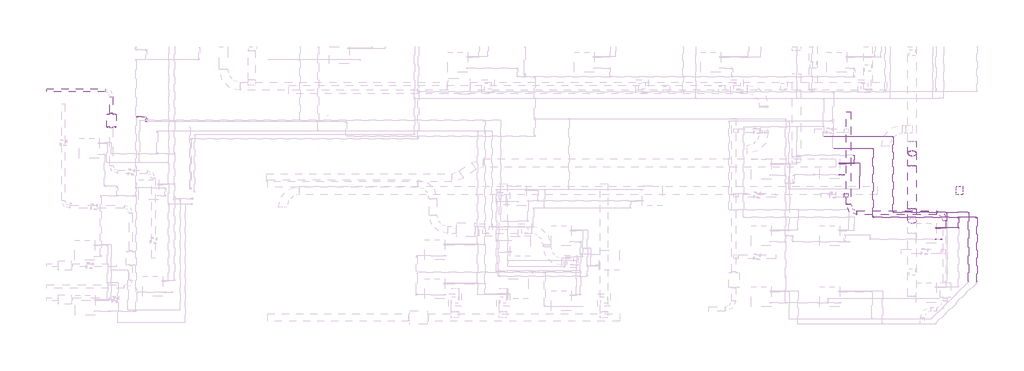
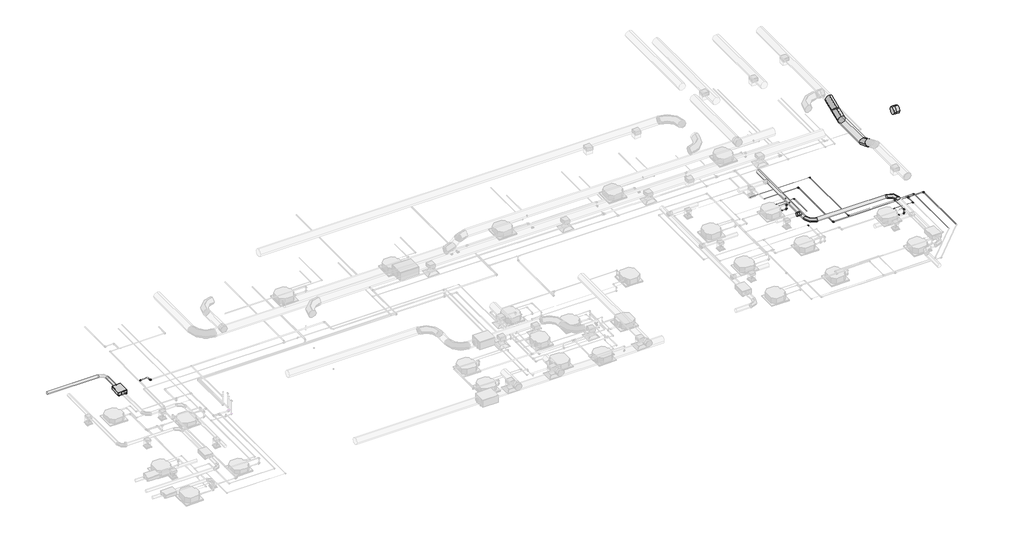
# One storey, part 12 of 21: 31 pipe fittings, 24 pipe segments, 7 duct fittings, 6 duct segments, 1 proxy.
"""IFC4 building model written with IfcOpenShell, lengths in millimetres."""

from ifc_helpers import new_model, si_unit, point, frame, frame_2d, origin, place, context, project, spatial, circle_curve, trimmed, segment, composite_curve, outline, extrude, transform, mapped, element, save
from components import fh_fh_150_19aaf5c2, duct_fitting_7b39ec1d, duct_fitting_f399081e, duct_fitting_2_d_646eede3, duct_fitting_2_d_9d61b47e, pipe_fitting_0ad7e8bf, pipe_fitting_e2d793b1, pipe_fitting_535881cf, pipe_fitting_36148165, pipe_fitting_144f4440, pipe_fitting_8793459d, pipe_fitting_1c2f676e, pipe_fitting_a5ff4f7d, pipe_fitting_660e7500, pipe_fitting_bd571644, pipe_fitting_e11027af, pipe_fitting_fb233220, pipe_fitting_41652c07, pipe_fitting_fefc82c8, pipe_fitting_c900cfc2, pipe_fitting_16c020f5, pipe_fitting_0e110a5f, pipe_fitting_afe73776, pipe_fitting_09966660, pipe_fitting_59d1f3e3, pipe_fitting_648138cd, pipe_fitting_d1254744

model = new_model("IFC4")

# Units and contexts
model_context = context("Model", 3, world=origin())
ifc_project = project(units=[si_unit("LENGTHUNIT", "METRE", prefix="MILLI")], contexts=[model_context])

# Site, building, storey
site = spatial("IfcSite", under=ifc_project)
building = spatial("IfcBuilding", under=site)
storey = spatial("IfcBuildingStorey", under=building, Name="Nível 1", Elevation=0.0)

# Proxy
placement = place(None, origin())
fh_fh_150_shape = fh_fh_150_19aaf5c2(model_context)
element("IfcBuildingElementProxy", 1, Name="FH : FH 150", ObjectType="FH : FH 150", at=placement, inside=storey, context=model_context, shape_type="MappedRepresentation", body=[
    mapped(fh_fh_150_shape, transform((-10322.9288653, 651.5577969, 3400.0), x_axis=(1.0, 0.0, 0.0), y_axis=(0.0, 1.0, 0.0), z_axis=(0.0, 0.0, 1.0))),
])

# Duct fittings
duct_fitting_shape = duct_fitting_7b39ec1d(model_context)
element("IfcDuctFitting", 2, ObjectType="M_Encaixe de duto redondo : Padrão", at=placement, inside=storey, context=model_context, shape_type="MappedRepresentation", body=[
    mapped(duct_fitting_shape, transform((24589.1034633, -2888.7123683, 3521.0), x_axis=(-1.0, 0.0, 0.0), y_axis=(0.0, 1.0, 0.0), z_axis=(0.0, 0.0, -1.0))),
])
duct_fitting_2_shape = duct_fitting_f399081e(model_context)
element("IfcDuctFitting", 3, ObjectType="M_Encaixe de duto redondo : Padrão", at=placement, inside=storey, context=model_context, shape_type="MappedRepresentation", body=[
    mapped(duct_fitting_2_shape, transform((29914.7064473, -2666.746009, 7501.0), x_axis=(-1.0, 0.0, 0.0), y_axis=(0.0, 1.0, 0.0), z_axis=(0.0, 0.0, -1.0))),
])
duct_fitting_2_d_shape = duct_fitting_2_d_646eede3(model_context)
element("IfcDuctFitting", 4, ObjectType="M_Cotovelo redondo : 2 D", at=placement, inside=storey, context=model_context, shape_type="MappedRepresentation", body=[
    mapped(duct_fitting_2_d_shape, transform((29288.6034633, -3719.1233987, 3521.0), x_axis=(0.0, 1.0, 0.0), y_axis=(-1.0, 0.0, 0.0), z_axis=(0.0, 0.0, 1.0))),
])
element("IfcDuctFitting", 5, ObjectType="M_Cotovelo redondo : 2 D", at=placement, inside=storey, context=model_context, shape_type="MappedRepresentation", body=[
    mapped(duct_fitting_2_d_shape, transform((24688.6034633, -3719.1233987, 3521.0), x_axis=(0.0, -1.0, 0.0), y_axis=(1.0, 0.0, 0.0), z_axis=(0.0, 0.0, 1.0))),
])
duct_fitting_2_d_2_shape = duct_fitting_2_d_9d61b47e(model_context)
element("IfcDuctFitting", 6, ObjectType="M_Cotovelo redondo : 2 D", at=placement, inside=storey, context=model_context, shape_type="MappedRepresentation", body=[
    mapped(duct_fitting_2_d_2_shape, transform((27714.7064473, -662.6460251, 7501.0), x_axis=(0.0, -1.0, 0.0), y_axis=(0.0, 0.0, -1.0), z_axis=(1.0, 0.0, 0.0))),
])
element("IfcDuctFitting", 7, ObjectType="M_Cotovelo redondo : 2 D", at=placement, inside=storey, context=model_context, shape_type="MappedRepresentation", body=[
    mapped(duct_fitting_2_d_2_shape, transform((27714.7064473, -1163.6460251, 7000.0), x_axis=(0.0, -0.707106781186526, -0.7071067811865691), y_axis=(0.0, -0.7071067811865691, 0.707106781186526), z_axis=(-1.0, 0.0, 0.0))),
])
element("IfcDuctFitting", 8, ObjectType="M_Cotovelo redondo : 2 D", at=placement, inside=storey, context=model_context, shape_type="MappedRepresentation", body=[
    mapped(duct_fitting_2_d_2_shape, transform((27714.7064473, -3862.6460251, 7000.0), x_axis=(0.0, -1.0, 0.0), y_axis=(0.0, 0.0, 1.0), z_axis=(-1.0, 0.0, 0.0))),
])

# Duct segments
element("IfcDuctSegment", 9, ObjectType="Torneiras / Raio curto", at=placement, inside=storey, context=model_context, shape_type="SweptSolid", body=[
    extrude(outline(composite_curve([segment(trimmed(circle_curve(frame_2d((3493.0, -10322.9288653)), 74.5), [point((3493.0, -10248.4288653))], [point((3567.5, -10322.9288653))], False, "CARTESIAN"), True, "CONTINUOUS"), segment(trimmed(circle_curve(frame_2d((3493.0, -10322.9288653)), 74.5), [point((3567.5, -10322.9288653))], [point((3493.0, -10397.4288653))], False, "CARTESIAN"), True, "CONTINUOUS"), segment(trimmed(circle_curve(frame_2d((3493.0, -10322.9288653)), 74.5), [point((3493.0, -10397.4288653))], [point((3418.5, -10322.9288653))], False, "CARTESIAN"), True, "CONTINUOUS"), segment(trimmed(circle_curve(frame_2d((3493.0, -10322.9288653)), 74.5), [point((3418.5, -10322.9288653))], [point((3493.0, -10248.4288653))], False, "CARTESIAN"), True, "CONTINUOUS")], self_intersect=False)), frame((0.0, 993.5577969, 0.0), z_axis=(0.0, 1.0, 0.0), x_axis=(0.0, 0.0, 1.0)), (0.0, 0.0, 1.0), 802.0),
])
element("IfcDuctSegment", 10, ObjectType="Torneiras / Raio curto", at=placement, inside=storey, context=model_context, shape_type="SweptSolid", body=[
    extrude(outline(composite_curve([segment(trimmed(circle_curve(frame_2d((2093.5577969, 3493.0)), 74.5), [point((2168.0577969, 3493.0))], [point((2093.5577969, 3418.5))], False, "CARTESIAN"), True, "CONTINUOUS"), segment(trimmed(circle_curve(frame_2d((2093.5577969, 3493.0)), 74.5), [point((2093.5577969, 3418.5))], [point((2019.0577969, 3493.0))], False, "CARTESIAN"), True, "CONTINUOUS"), segment(trimmed(circle_curve(frame_2d((2093.5577969, 3493.0)), 74.5), [point((2019.0577969, 3493.0))], [point((2093.5577969, 3567.5))], False, "CARTESIAN"), True, "CONTINUOUS"), segment(trimmed(circle_curve(frame_2d((2093.5577969, 3493.0)), 74.5), [point((2093.5577969, 3567.5))], [point((2168.0577969, 3493.0))], False, "CARTESIAN"), True, "CONTINUOUS")], self_intersect=False)), frame((-13404.386399, 0.0, 0.0), z_axis=(1.0, 0.0, 0.0), x_axis=(0.0, 1.0, 0.0)), (0.0, 0.0, 1.0), 2783.4575337),
])
element("IfcDuctSegment", 11, ObjectType="Torneiras / Raio curto", at=placement, inside=storey, context=model_context, shape_type="SweptSolid", body=[
    extrude(outline(composite_curve([segment(trimmed(circle_curve(frame_2d((-3719.1233987, 3521.0)), 99.5), [point((-3619.6233987, 3521.0))], [point((-3719.1233987, 3421.5))], False, "CARTESIAN"), True, "CONTINUOUS"), segment(trimmed(circle_curve(frame_2d((-3719.1233987, 3521.0)), 99.5), [point((-3719.1233987, 3421.5))], [point((-3818.6233987, 3521.0))], False, "CARTESIAN"), True, "CONTINUOUS"), segment(trimmed(circle_curve(frame_2d((-3719.1233987, 3521.0)), 99.5), [point((-3818.6233987, 3521.0))], [point((-3719.1233987, 3620.5))], False, "CARTESIAN"), True, "CONTINUOUS"), segment(trimmed(circle_curve(frame_2d((-3719.1233987, 3521.0)), 99.5), [point((-3719.1233987, 3620.5))], [point((-3619.6233987, 3521.0))], False, "CARTESIAN"), True, "CONTINUOUS")], self_intersect=False)), frame((25086.6034633, 0.0, 0.0), z_axis=(1.0, 0.0, 0.0), x_axis=(0.0, 1.0, 0.0)), (0.0, 0.0, 1.0), 3804.0),
])
element("IfcDuctSegment", 12, ObjectType="Torneiras / Raio curto", at=placement, inside=storey, context=model_context, shape_type="SweptSolid", body=[
    extrude(outline(composite_curve([segment(trimmed(circle_curve(frame_2d((3521.0, 24688.6034633)), 99.5), [point((3521.0, 24788.1034633))], [point((3620.5, 24688.6034633))], False, "CARTESIAN"), True, "CONTINUOUS"), segment(trimmed(circle_curve(frame_2d((3521.0, 24688.6034633)), 99.5), [point((3620.5, 24688.6034633))], [point((3521.0, 24589.1034633))], False, "CARTESIAN"), True, "CONTINUOUS"), segment(trimmed(circle_curve(frame_2d((3521.0, 24688.6034633)), 99.5), [point((3521.0, 24589.1034633))], [point((3421.5, 24688.6034633))], False, "CARTESIAN"), True, "CONTINUOUS"), segment(trimmed(circle_curve(frame_2d((3521.0, 24688.6034633)), 99.5), [point((3421.5, 24688.6034633))], [point((3521.0, 24788.1034633))], False, "CARTESIAN"), True, "CONTINUOUS")], self_intersect=False)), frame((0.0, -3321.1233987, 0.0), z_axis=(0.0, 1.0, 0.0), x_axis=(0.0, 0.0, 1.0)), (0.0, 0.0, 1.0), 4402.0),
])
element("IfcDuctSegment", 13, ObjectType="Torneiras / Raio curto", at=placement, inside=storey, context=model_context, shape_type="SweptSolid", body=[
    extrude(outline(composite_curve([segment(trimmed(circle_curve(frame_2d((7000.0, 27714.7064473)), 200.0), [point((7000.0, 27514.7064473))], [point((6800.0, 27714.7064473))], False, "CARTESIAN"), True, "CONTINUOUS"), segment(trimmed(circle_curve(frame_2d((7000.0, 27714.7064473)), 200.0), [point((6800.0, 27714.7064473))], [point((7000.0, 27914.7064473))], False, "CARTESIAN"), True, "CONTINUOUS"), segment(trimmed(circle_curve(frame_2d((7000.0, 27714.7064473)), 200.0), [point((7000.0, 27914.7064473))], [point((7200.0, 27714.7064473))], False, "CARTESIAN"), True, "CONTINUOUS"), segment(trimmed(circle_curve(frame_2d((7000.0, 27714.7064473)), 200.0), [point((7200.0, 27714.7064473))], [point((7000.0, 27514.7064473))], False, "CARTESIAN"), True, "CONTINUOUS")], self_intersect=False)), frame((0.0, -3531.2751752, 0.0), z_axis=(0.0, 1.0, 0.0), x_axis=(0.0, 0.0, 1.0)), (0.0, 0.0, 1.0), 2036.2583002),
])
element("IfcDuctSegment", 14, ObjectType="Torneiras / Raio curto", at=placement, inside=storey, context=model_context, shape_type="SweptSolid", body=[
    extrude(outline(composite_curve([segment(trimmed(circle_curve(frame_2d((0.0, -200.0000001)), 200.0), [point((-200.0, -200.0000001))], [point((0.0, 0.0))], False, "CARTESIAN"), True, "CONTINUOUS"), segment(trimmed(circle_curve(frame_2d((0.0, -200.0000001)), 200.0), [point((0.0, 0.0))], [point((200.0, -200.0000001))], False, "CARTESIAN"), True, "CONTINUOUS"), segment(trimmed(circle_curve(frame_2d((0.0, -200.0000001)), 200.0), [point((200.0, -200.0000001))], [point((0.0, -400.0))], False, "CARTESIAN"), True, "CONTINUOUS"), segment(trimmed(circle_curve(frame_2d((0.0, -200.0000001)), 200.0), [point((0.0, -400.0))], [point((-200.0, -200.0000001))], False, "CARTESIAN"), True, "CONTINUOUS")], self_intersect=False)), frame((27714.7064473, -787.9100938, 7092.8932188), z_axis=(0.0, 0.7071067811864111, 0.7071067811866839), x_axis=(1.0, 0.0, 0.0)), (0.0, 0.0, 1.0), 45.779295),
])

# Pipe fittings
pipe_fitting_shape = pipe_fitting_0ad7e8bf(model_context)
element("IfcPipeFitting", 15, ObjectType="Cotovelo - Soldado - CU : Padrão", at=placement, inside=storey, context=model_context, shape_type="MappedRepresentation", body=[
    mapped(pipe_fitting_shape, transform((25856.1500382, -671.6771216, 3246.8), x_axis=(0.0, 1.0, 0.0), y_axis=(-1.0, 0.0, 0.0), z_axis=(0.0, 0.0, 1.0))),
])
element("IfcPipeFitting", 16, ObjectType="Cotovelo - Soldado - CU : Padrão", at=placement, inside=storey, context=model_context, shape_type="MappedRepresentation", body=[
    mapped(pipe_fitting_shape, transform((25856.1500382, -3937.5722412, 3246.8), x_axis=(0.0, -1.0, 0.0), y_axis=(1.0, 0.0, 0.0), z_axis=(0.0, 0.0, 1.0))),
])
pipe_fitting_2_shape = pipe_fitting_e2d793b1(model_context)
element("IfcPipeFitting", 17, ObjectType="Bucha de redução reta - Soldada - CU : Padrão", at=placement, inside=storey, context=model_context, shape_type="MappedRepresentation", body=[
    mapped(pipe_fitting_2_shape, transform((24230.0530733, -1926.1931819, 3252.2660491), x_axis=(1.0, 0.0, 0.0), y_axis=(0.0, 1.0, 0.0), z_axis=(0.0, 0.0, 1.0))),
])
element("IfcPipeFitting", 18, ObjectType="Bucha de redução reta - Soldada - CU : Padrão", at=placement, inside=storey, context=model_context, shape_type="MappedRepresentation", body=[
    mapped(pipe_fitting_2_shape, transform((28813.6034633, -4984.1233987, 3252.3085101), x_axis=(1.0, 0.0, 0.0), y_axis=(0.0, 1.0, 0.0), z_axis=(0.0, 0.0, 1.0))),
])
pipe_fitting_3_shape = pipe_fitting_535881cf(model_context)
element("IfcPipeFitting", 19, ObjectType="Cotovelo - Soldado - CU : Padrão", at=placement, inside=storey, context=model_context, shape_type="MappedRepresentation", body=[
    mapped(pipe_fitting_3_shape, transform((24490.0530711, -1926.1931819, 3500.0), x_axis=(0.0, 0.0, 1.0), y_axis=(-1.0, 0.0, 0.0), z_axis=(0.0, -1.0, 0.0))),
])
element("IfcPipeFitting", 20, ObjectType="Cotovelo - Soldado - CU : Padrão", at=placement, inside=storey, context=model_context, shape_type="MappedRepresentation", body=[
    mapped(pipe_fitting_3_shape, transform((29113.6034631, -4984.1233987, 3500.0), x_axis=(0.0, 0.0, 1.0), y_axis=(-1.0, 0.0, 0.0), z_axis=(0.0, -1.0, 0.0))),
])
pipe_fitting_4_shape = pipe_fitting_36148165(model_context)
element("IfcPipeFitting", 21, ObjectType="Redutor de acoplamento - PVC - CW : Padrão", at=placement, inside=storey, context=model_context, shape_type="MappedRepresentation", body=[
    mapped(pipe_fitting_4_shape, transform((-9107.735193, 826.0615245, 3483.5835642), x_axis=(1.0, 0.0, 0.0), y_axis=(0.0, 0.9999500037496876, 0.009999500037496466), z_axis=(0.0, -0.009999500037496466, 0.9999500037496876))),
])
pipe_fitting_5_shape = pipe_fitting_144f4440(model_context)
element("IfcPipeFitting", 22, ObjectType="Cotovelo - PVC - CW : Padrão", at=placement, inside=storey, context=model_context, shape_type="MappedRepresentation", body=[
    mapped(pipe_fitting_5_shape, transform((-8672.0832008, 606.0615245, 3500.4499775), x_axis=(0.0, -1.0, 0.0), y_axis=(1.0, 0.0, 0.0), z_axis=(0.0, 0.0, 1.0))),
])
pipe_fitting_6_shape = pipe_fitting_8793459d(model_context)
element("IfcPipeFitting", 23, ObjectType="Cotovelo - Soldado - CU : Padrão", at=placement, inside=storey, context=model_context, shape_type="MappedRepresentation", body=[
    mapped(pipe_fitting_6_shape, transform((24490.0530711, -1926.1931819, 3252.3), x_axis=(0.9999999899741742, 0.0, 0.00014160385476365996), y_axis=(-0.00014160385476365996, 0.0, 0.9999999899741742), z_axis=(0.0, -1.0, 0.0))),
])
pipe_fitting_7_shape = pipe_fitting_1c2f676e(model_context)
element("IfcPipeFitting", 24, ObjectType="Cotovelo - Soldado - CU : Padrão", at=placement, inside=storey, context=model_context, shape_type="MappedRepresentation", body=[
    mapped(pipe_fitting_7_shape, transform((29113.6034631, -4984.1233987, 3252.3), x_axis=(0.9999999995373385, 0.0, -3.0419120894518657e-05), y_axis=(3.0419120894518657e-05, 0.0, 0.9999999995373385), z_axis=(0.0, -1.0, 0.0))),
])
pipe_fitting_8_shape = pipe_fitting_a5ff4f7d(model_context)
element("IfcPipeFitting", 25, ObjectType="Bucha de redução reta - Soldada - CU : Padrão", at=placement, inside=storey, context=model_context, shape_type="MappedRepresentation", body=[
    mapped(pipe_fitting_8_shape, transform((29890.9617916, -4425.9125851, 3246.9823632), x_axis=(-0.9999844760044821, 0.0, 0.00557205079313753), y_axis=(0.0, -1.0, 0.0), z_axis=(0.00557205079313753, 0.0, 0.9999844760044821))),
])
pipe_fitting_9_shape = pipe_fitting_660e7500(model_context)
element("IfcPipeFitting", 26, ObjectType="Tê - Soldado - CU : Padrão", at=placement, inside=storey, context=model_context, shape_type="MappedRepresentation", body=[
    mapped(pipe_fitting_9_shape, transform((29923.6894835, -4425.9125851, 3246.8), x_axis=(0.0, 1.0, 0.0), y_axis=(0.9999844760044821, 0.0, -0.00557205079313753), z_axis=(-0.00557205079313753, 0.0, -0.9999844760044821))),
])
pipe_fitting_10_shape = pipe_fitting_bd571644(model_context)
element("IfcPipeFitting", 27, ObjectType="Bucha de redução reta - Soldada - CU : Padrão", at=placement, inside=storey, context=model_context, shape_type="MappedRepresentation", body=[
    mapped(pipe_fitting_10_shape, transform((24702.7119733, -3612.6101808, 3258.3807208), x_axis=(0.0, -0.9999999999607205, 8.863362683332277e-06), y_axis=(1.0000000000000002, 0.0, 0.0), z_axis=(0.0, 8.863362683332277e-06, 0.9999999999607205))),
])
pipe_fitting_11_shape = pipe_fitting_e11027af(model_context)
element("IfcPipeFitting", 28, ObjectType="Tê - Soldado - CU : Padrão", at=placement, inside=storey, context=model_context, shape_type="MappedRepresentation", body=[
    mapped(pipe_fitting_11_shape, transform((29923.6894835, -3937.5722412, 3246.8), x_axis=(-1.0, 0.0, 0.0), y_axis=(0.0, 1.0, 0.0), z_axis=(0.0, 0.0, -1.0))),
])
pipe_fitting_12_shape = pipe_fitting_fb233220(model_context)
element("IfcPipeFitting", 29, ObjectType="Bucha de redução reta - Soldada - CU : Padrão", at=placement, inside=storey, context=model_context, shape_type="MappedRepresentation", body=[
    mapped(pipe_fitting_12_shape, transform((29923.6894835, -3978.0197412, 3246.8), x_axis=(0.0, -1.0, 0.0), y_axis=(1.0, 0.0, 0.0), z_axis=(0.0, 0.0, 1.0))),
])
pipe_fitting_13_shape = pipe_fitting_41652c07(model_context)
element("IfcPipeFitting", 30, ObjectType="Bucha de redução reta - Soldada - CU : Padrão", at=placement, inside=storey, context=model_context, shape_type="MappedRepresentation", body=[
    mapped(pipe_fitting_13_shape, transform((29964.1082335, -3937.5722412, 3246.8), x_axis=(1.0, 0.0, 0.0), y_axis=(0.0, 1.0, 0.0), z_axis=(0.0, 0.0, 1.0))),
])
pipe_fitting_14_shape = pipe_fitting_fefc82c8(model_context)
element("IfcPipeFitting", 31, ObjectType="Cotovelo - Soldado - CU : Padrão", at=placement, inside=storey, context=model_context, shape_type="MappedRepresentation", body=[
    mapped(pipe_fitting_14_shape, transform((30783.5082335, -3937.5722412, 3246.8), x_axis=(0.0, 1.0, 0.0), y_axis=(-1.0, 0.0, 0.0), z_axis=(0.0, 0.0, 1.0))),
])
pipe_fitting_15_shape = pipe_fitting_c900cfc2(model_context)
element("IfcPipeFitting", 32, ObjectType="Bucha de redução reta - Soldada - CU : Padrão", at=placement, inside=storey, context=model_context, shape_type="MappedRepresentation", body=[
    mapped(pipe_fitting_15_shape, transform((24230.0530733, -1367.9823682, 3252.2660491), x_axis=(1.0, 0.0, 0.0), y_axis=(0.0, 1.0, 0.0), z_axis=(0.0, 0.0, 1.0))),
])
element("IfcPipeFitting", 33, ObjectType="Bucha de redução reta - Soldada - CU : Padrão", at=placement, inside=storey, context=model_context, shape_type="MappedRepresentation", body=[
    mapped(pipe_fitting_15_shape, transform((28877.0623051, -4425.9125851, 3252.3085101), x_axis=(1.0, 0.0, 0.0), y_axis=(0.0, 1.0, 0.0), z_axis=(0.0, 0.0, 1.0))),
])
pipe_fitting_16_shape = pipe_fitting_16c020f5(model_context)
element("IfcPipeFitting", 34, ObjectType="Cotovelo - Soldado - CU : Padrão", at=placement, inside=storey, context=model_context, shape_type="MappedRepresentation", body=[
    mapped(pipe_fitting_16_shape, transform((25221.0744733, -1367.9823682, 3252.3), x_axis=(0.0, 1.0, 0.0), y_axis=(-0.9999999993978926, 0.0, -3.470180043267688e-05), z_axis=(-3.470180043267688e-05, 0.0, 0.9999999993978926))),
])
element("IfcPipeFitting", 35, ObjectType="Cotovelo - Soldado - CU : Padrão", at=placement, inside=storey, context=model_context, shape_type="MappedRepresentation", body=[
    mapped(pipe_fitting_16_shape, transform((24702.7119733, -3583.6315808, 3258.3804639), x_axis=(0.0, 0.9999999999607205, -8.863362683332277e-06), y_axis=(-1.0000000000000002, 0.0, 0.0), z_axis=(0.0, 8.863362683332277e-06, 0.9999999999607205))),
])
element("IfcPipeFitting", 36, ObjectType="Cotovelo - Soldado - CU : Padrão", at=placement, inside=storey, context=model_context, shape_type="MappedRepresentation", body=[
    mapped(pipe_fitting_16_shape, transform((30389.1894121, -3703.2962428, 3146.8), x_axis=(0.0, 1.0, 0.0), y_axis=(-1.0, 0.0, 0.0), z_axis=(0.0, 0.0, 1.0))),
])
pipe_fitting_17_shape = pipe_fitting_0e110a5f(model_context)
element("IfcPipeFitting", 37, ObjectType="Cotovelo - Soldado - CU : Padrão", at=placement, inside=storey, context=model_context, shape_type="MappedRepresentation", body=[
    mapped(pipe_fitting_17_shape, transform((26807.2025647, -103.2962428, 3146.8), x_axis=(0.0, 1.0, 0.0), y_axis=(-1.0, 0.0, 0.0), z_axis=(0.0, 0.0, 1.0))),
])
element("IfcPipeFitting", 38, ObjectType="Cotovelo - Soldado - CU : Padrão", at=placement, inside=storey, context=model_context, shape_type="MappedRepresentation", body=[
    mapped(pipe_fitting_17_shape, transform((26807.2025647, -3703.2962428, 3146.8), x_axis=(0.0, -1.0, 0.0), y_axis=(1.0, 0.0, 0.0), z_axis=(0.0, 0.0, 1.0))),
])
pipe_fitting_18_shape = pipe_fitting_afe73776(model_context)
element("IfcPipeFitting", 39, ObjectType="Bucha de redução reta - Soldada - CU : Padrão", at=placement, inside=storey, context=model_context, shape_type="MappedRepresentation", body=[
    mapped(pipe_fitting_18_shape, transform((29376.5305121, -3703.2962428, 3146.8), x_axis=(1.0, 0.0, 0.0), y_axis=(0.0, 1.0, 0.0), z_axis=(0.0, 0.0, 1.0))),
])
pipe_fitting_19_shape = pipe_fitting_09966660(model_context)
element("IfcPipeFitting", 40, ObjectType="Tê - Soldado - CU : Padrão", at=placement, inside=storey, context=model_context, shape_type="MappedRepresentation", body=[
    mapped(pipe_fitting_19_shape, transform((29346.3352621, -3703.2962428, 3146.8), x_axis=(-1.0, 0.0, 0.0), y_axis=(0.0, 1.0, 0.0), z_axis=(0.0, 0.0, -1.0))),
])
pipe_fitting_20_shape = pipe_fitting_59d1f3e3(model_context)
element("IfcPipeFitting", 41, ObjectType="Bucha de redução reta - Soldada - CU : Padrão", at=placement, inside=storey, context=model_context, shape_type="MappedRepresentation", body=[
    mapped(pipe_fitting_20_shape, transform((24230.0530733, -1401.78481, 3146.8446487), x_axis=(1.0, 0.0, 0.0), y_axis=(0.0, 1.0, 0.0), z_axis=(0.0, 0.0, 1.0))),
])
element("IfcPipeFitting", 42, ObjectType="Bucha de redução reta - Soldada - CU : Padrão", at=placement, inside=storey, context=model_context, shape_type="MappedRepresentation", body=[
    mapped(pipe_fitting_20_shape, transform((28813.6034633, -4459.7150269, 3146.8446487), x_axis=(1.0, 0.0, 0.0), y_axis=(0.0, 1.0, 0.0), z_axis=(0.0, 0.0, 1.0))),
])
pipe_fitting_21_shape = pipe_fitting_648138cd(model_context)
element("IfcPipeFitting", 43, ObjectType="Cotovelo - Soldado - CU : Padrão", at=placement, inside=storey, context=model_context, shape_type="MappedRepresentation", body=[
    mapped(pipe_fitting_21_shape, transform((24966.0274714, -1401.78481, 3146.8021878), x_axis=(1.0, 0.0, 0.0), y_axis=(0.0, 0.9999999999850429, -5.469391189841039e-06), z_axis=(0.0, 5.469391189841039e-06, 0.9999999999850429))),
])
element("IfcPipeFitting", 44, ObjectType="Cotovelo - Soldado - CU : Padrão", at=placement, inside=storey, context=model_context, shape_type="MappedRepresentation", body=[
    mapped(pipe_fitting_21_shape, transform((24966.0274714, -1001.78481, 3146.8), x_axis=(0.0, 0.9999999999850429, -5.4693911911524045e-06), y_axis=(-0.9999999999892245, -2.539065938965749e-11, -4.642319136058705e-06), z_axis=(-4.64231913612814e-06, 5.469391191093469e-06, 0.9999999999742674))),
])
pipe_fitting_22_shape = pipe_fitting_d1254744(model_context)
element("IfcPipeFitting", 45, ObjectType="Bucha de redução reta - Soldada - CU : Padrão", at=placement, inside=storey, context=model_context, shape_type="MappedRepresentation", body=[
    mapped(pipe_fitting_22_shape, transform((29346.3352621, -3733.4567428, 3146.8), x_axis=(0.0, -1.0, 0.0), y_axis=(1.0, 0.0, 0.0), z_axis=(0.0, 0.0, 1.0))),
])

# Pipe segments
element("IfcPipeSegment", 46, ObjectType="Tubos de cobre HVAC", at=placement, inside=storey, context=model_context, shape_type="SweptSolid", body=[
    extrude(outline(composite_curve([segment(trimmed(circle_curve(frame_2d((0.0, -7.935)), 7.935), [point((0.0, -15.87))], [point((-7.9349999, -7.935))], False, "CARTESIAN"), True, "CONTINUOUS"), segment(trimmed(circle_curve(frame_2d((0.0, -7.935)), 7.935), [point((-7.9349999, -7.935))], [point((0.0, 0.0))], False, "CARTESIAN"), True, "CONTINUOUS"), segment(trimmed(circle_curve(frame_2d((0.0, -7.935)), 7.935), [point((0.0, 0.0))], [point((7.935, -7.935))], False, "CARTESIAN"), True, "CONTINUOUS"), segment(trimmed(circle_curve(frame_2d((0.0, -7.935)), 7.935), [point((7.935, -7.935))], [point((0.0, -15.87))], False, "CARTESIAN"), True, "CONTINUOUS")], self_intersect=False)), frame((29878.3030881, -4417.9775851, 3247.0528992), z_axis=(-0.999985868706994, 0.0, 0.005316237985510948), x_axis=(0.005316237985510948, 0.0, 0.999985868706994)), (0.0, 0.0, 1.0), 988.5958531),
])
element("IfcPipeSegment", 47, ObjectType="Tubos de cobre HVAC", at=placement, inside=storey, context=model_context, shape_type="SweptSolid", body=[
    extrude(outline(composite_curve([segment(trimmed(circle_curve(frame_2d((-1401.78481, 3146.8021878)), 4.76), [point((-1406.54481, 3146.8021878))], [point((-1401.78481, 3151.5621878))], False, "CARTESIAN"), True, "CONTINUOUS"), segment(trimmed(circle_curve(frame_2d((-1401.78481, 3146.8021878)), 4.76), [point((-1401.78481, 3151.5621878))], [point((-1397.02481, 3146.8021878))], False, "CARTESIAN"), True, "CONTINUOUS"), segment(trimmed(circle_curve(frame_2d((-1401.78481, 3146.8021878)), 4.76), [point((-1397.02481, 3146.8021878))], [point((-1401.78481, 3142.0421878))], False, "CARTESIAN"), True, "CONTINUOUS"), segment(trimmed(circle_curve(frame_2d((-1401.78481, 3146.8021878)), 4.76), [point((-1401.78481, 3142.0421878))], [point((-1406.54481, 3146.8021878))], False, "CARTESIAN"), True, "CONTINUOUS")], self_intersect=False)), frame((24239.7274733, 0.0, 0.0), z_axis=(1.0, 0.0, 0.0), x_axis=(0.0, 1.0, 0.0)), (0.0, 0.0, 1.0), 702.2743981),
])
element("IfcPipeSegment", 48, ObjectType="Plástico", at=placement, inside=storey, context=model_context, shape_type="SweptSolid", body=[
    extrude(outline(composite_curve([segment(trimmed(circle_curve(frame_2d((3500.4499775, -8672.0832008)), 20.0), [point((3500.4499775, -8652.0832008))], [point((3520.4499775, -8672.0832008))], False, "CARTESIAN"), True, "CONTINUOUS"), segment(trimmed(circle_curve(frame_2d((3500.4499775, -8672.0832008)), 20.0), [point((3520.4499775, -8672.0832008))], [point((3500.4499775, -8692.0832008))], False, "CARTESIAN"), True, "CONTINUOUS"), segment(trimmed(circle_curve(frame_2d((3500.4499775, -8672.0832008)), 20.0), [point((3500.4499775, -8692.0832008))], [point((3480.4499775, -8672.0832008))], False, "CARTESIAN"), True, "CONTINUOUS"), segment(trimmed(circle_curve(frame_2d((3500.4499775, -8672.0832008)), 20.0), [point((3480.4499775, -8672.0832008))], [point((3500.4499775, -8652.0832008))], False, "CARTESIAN"), True, "CONTINUOUS")], self_intersect=False)), frame((0.0, 651.0615245, 0.0), z_axis=(0.0, 1.0, 0.0), x_axis=(0.0, 0.0, 1.0)), (0.0, 0.0, 1.0), 130.0),
])
element("IfcPipeSegment", 49, ObjectType="Plástico", at=placement, inside=storey, context=model_context, shape_type="SweptSolid", body=[
    extrude(outline(composite_curve([segment(trimmed(circle_curve(frame_2d((0.0, 20.0)), 20.0), [point((0.0, 0.0))], [point((-20.0, 20.0))], False, "CARTESIAN"), True, "CONTINUOUS"), segment(trimmed(circle_curve(frame_2d((0.0, 20.0)), 20.0), [point((-20.0, 20.0))], [point((0.0, 40.0))], False, "CARTESIAN"), True, "CONTINUOUS"), segment(trimmed(circle_curve(frame_2d((0.0, 20.0)), 20.0), [point((0.0, 40.0))], [point((20.0, 20.0))], False, "CARTESIAN"), True, "CONTINUOUS"), segment(trimmed(circle_curve(frame_2d((0.0, 20.0)), 20.0), [point((20.0, 20.0))], [point((0.0, 0.0))], False, "CARTESIAN"), True, "CONTINUOUS")], self_intersect=False)), frame((-9054.805993, 806.0615245, 3483.5835642), z_axis=(0.999064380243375, 0.0, 0.04324770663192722), x_axis=(0.04324770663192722, 0.0, -0.999064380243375)), (0.0, 0.0, 1.0), 338.0951345),
])
element("IfcPipeSegment", 50, ObjectType="Tubos de cobre HVAC", at=placement, inside=storey, context=model_context, shape_type="SweptSolid", body=[
    extrude(outline(composite_curve([segment(trimmed(circle_curve(frame_2d((0.0, 17.5000001)), 17.5), [point((-17.5, 17.5000001))], [point((0.0, 35.0000001))], False, "CARTESIAN"), True, "CONTINUOUS"), segment(trimmed(circle_curve(frame_2d((0.0, 17.5000001)), 17.5), [point((0.0, 35.0000001))], [point((17.5, 17.5000001))], False, "CARTESIAN"), True, "CONTINUOUS"), segment(trimmed(circle_curve(frame_2d((0.0, 17.5000001)), 17.5), [point((17.5, 17.5000001))], [point((0.0, 0.0))], False, "CARTESIAN"), True, "CONTINUOUS"), segment(trimmed(circle_curve(frame_2d((0.0, 17.5000001)), 17.5), [point((0.0, 0.0))], [point((-17.5, 17.5000001))], False, "CARTESIAN"), True, "CONTINUOUS")], self_intersect=False)), frame((24250.2955514, -1926.1931819, 3234.7660492), z_axis=(0.9999999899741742, 0.0, 0.0001416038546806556), x_axis=(0.0, 1.0, 0.0)), (0.0, 0.0, 1.0), 198.1600002),
])
element("IfcPipeSegment", 51, ObjectType="Tubos de cobre HVAC", at=placement, inside=storey, context=model_context, shape_type="SweptSolid", body=[
    extrude(outline(composite_curve([segment(trimmed(circle_curve(frame_2d((24490.0530711, -1926.1931819)), 17.5), [point((24507.5530711, -1926.1931819))], [point((24490.0530711, -1943.6931819))], False, "CARTESIAN"), True, "CONTINUOUS"), segment(trimmed(circle_curve(frame_2d((24490.0530711, -1926.1931819)), 17.5), [point((24490.0530711, -1943.6931819))], [point((24472.5530711, -1926.1931819))], False, "CARTESIAN"), True, "CONTINUOUS"), segment(trimmed(circle_curve(frame_2d((24490.0530711, -1926.1931819)), 17.5), [point((24472.5530711, -1926.1931819))], [point((24490.0530711, -1908.6931819))], False, "CARTESIAN"), True, "CONTINUOUS"), segment(trimmed(circle_curve(frame_2d((24490.0530711, -1926.1931819)), 17.5), [point((24490.0530711, -1908.6931819))], [point((24507.5530711, -1926.1931819))], False, "CARTESIAN"), True, "CONTINUOUS")], self_intersect=False)), frame((0.0, 0.0, 3293.9), z_axis=(0.0, 0.0, 1.0), x_axis=(1.0, 0.0, 0.0)), (0.0, 0.0, 1.0), 164.5),
])
element("IfcPipeSegment", 52, ObjectType="Tubos de cobre HVAC", at=placement, inside=storey, context=model_context, shape_type="SweptSolid", body=[
    extrude(outline(composite_curve([segment(trimmed(circle_curve(frame_2d((29113.6034631, -4984.1233987)), 17.5), [point((29131.1034631, -4984.1233987))], [point((29113.6034631, -5001.6233987))], False, "CARTESIAN"), True, "CONTINUOUS"), segment(trimmed(circle_curve(frame_2d((29113.6034631, -4984.1233987)), 17.5), [point((29113.6034631, -5001.6233987))], [point((29096.1034631, -4984.1233987))], False, "CARTESIAN"), True, "CONTINUOUS"), segment(trimmed(circle_curve(frame_2d((29113.6034631, -4984.1233987)), 17.5), [point((29096.1034631, -4984.1233987))], [point((29113.6034631, -4966.6233987))], False, "CARTESIAN"), True, "CONTINUOUS"), segment(trimmed(circle_curve(frame_2d((29113.6034631, -4984.1233987)), 17.5), [point((29113.6034631, -4966.6233987))], [point((29131.1034631, -4984.1233987))], False, "CARTESIAN"), True, "CONTINUOUS")], self_intersect=False)), frame((0.0, 0.0, 3293.9), z_axis=(0.0, 0.0, 1.0), x_axis=(1.0, 0.0, 0.0)), (0.0, 0.0, 1.0), 164.5),
])
element("IfcPipeSegment", 53, ObjectType="Tubos de cobre HVAC", at=placement, inside=storey, context=model_context, shape_type="SweptSolid", body=[
    extrude(outline(composite_curve([segment(trimmed(circle_curve(frame_2d((0.0, 7.935)), 7.935), [point((-7.935, 7.935))], [point((0.0, 15.87))], False, "CARTESIAN"), True, "CONTINUOUS"), segment(trimmed(circle_curve(frame_2d((0.0, 7.935)), 7.935), [point((0.0, 15.87))], [point((7.935, 7.935))], False, "CARTESIAN"), True, "CONTINUOUS"), segment(trimmed(circle_curve(frame_2d((0.0, 7.935)), 7.935), [point((7.935, 7.935))], [point((0.0, 0.0))], False, "CARTESIAN"), True, "CONTINUOUS"), segment(trimmed(circle_curve(frame_2d((0.0, 7.935)), 7.935), [point((0.0, 0.0))], [point((-7.935, 7.935))], False, "CARTESIAN"), True, "CONTINUOUS")], self_intersect=False)), frame((24242.7122487, -1367.9823682, 3244.3310491), z_axis=(0.9999999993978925, 0.0, 3.4701800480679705e-05), x_axis=(0.0, 1.0, 0.0)), (0.0, 0.0, 1.0), 949.3839006),
])
element("IfcPipeSegment", 54, ObjectType="Tubos de cobre HVAC", at=placement, inside=storey, context=model_context, shape_type="SweptSolid", body=[
    extrude(outline(composite_curve([segment(trimmed(circle_curve(frame_2d((3252.3, 25221.0744733)), 7.935), [point((3252.3, 25213.1394733))], [point((3244.365, 25221.0744733))], False, "CARTESIAN"), True, "CONTINUOUS"), segment(trimmed(circle_curve(frame_2d((3252.3, 25221.0744733)), 7.935), [point((3244.365, 25221.0744733))], [point((3252.3, 25229.0094733))], False, "CARTESIAN"), True, "CONTINUOUS"), segment(trimmed(circle_curve(frame_2d((3252.3, 25221.0744733)), 7.935), [point((3252.3, 25229.0094733))], [point((3260.235, 25221.0744733))], False, "CARTESIAN"), True, "CONTINUOUS"), segment(trimmed(circle_curve(frame_2d((3252.3, 25221.0744733)), 7.935), [point((3260.235, 25221.0744733))], [point((3252.3, 25213.1394733))], False, "CARTESIAN"), True, "CONTINUOUS")], self_intersect=False)), frame((0.0, -2567.9823682, 0.0), z_axis=(0.0, 1.0, 0.0), x_axis=(0.0, 0.0, 1.0)), (0.0, 0.0, 1.0), 1171.0214),
])
element("IfcPipeSegment", 55, ObjectType="Tubos de cobre HVAC", at=placement, inside=storey, context=model_context, shape_type="SweptSolid", body=[
    extrude(outline(composite_curve([segment(trimmed(circle_curve(frame_2d((3146.8020564, 24966.0274714)), 4.76), [point((3146.8020564, 24970.7874714))], [point((3151.5620564, 24966.0274714))], False, "CARTESIAN"), True, "CONTINUOUS"), segment(trimmed(circle_curve(frame_2d((3146.8020564, 24966.0274714)), 4.76), [point((3151.5620564, 24966.0274714))], [point((3146.8020564, 24961.2674714))], False, "CARTESIAN"), True, "CONTINUOUS"), segment(trimmed(circle_curve(frame_2d((3146.8020564, 24966.0274714)), 4.76), [point((3146.8020564, 24961.2674714))], [point((3142.0420564, 24966.0274714))], False, "CARTESIAN"), True, "CONTINUOUS"), segment(trimmed(circle_curve(frame_2d((3146.8020564, 24966.0274714)), 4.76), [point((3142.0420564, 24966.0274714))], [point((3146.8020564, 24970.7874714))], False, "CARTESIAN"), True, "CONTINUOUS")], self_intersect=False)), frame((0.0, -1377.75921, 0.0), z_axis=(0.0, 1.0, 0.0), x_axis=(0.0, 0.0, 1.0)), (0.0, 0.0, 1.0), 351.9488),
])
element("IfcPipeSegment", 56, ObjectType="Tubos de cobre HVAC", at=placement, inside=storey, context=model_context, shape_type="SweptSolid", body=[
    extrude(outline(composite_curve([segment(trimmed(circle_curve(frame_2d((-671.6771216, 3246.8)), 15.875), [point((-687.5521216, 3246.8))], [point((-671.6771216, 3262.675))], False, "CARTESIAN"), True, "CONTINUOUS"), segment(trimmed(circle_curve(frame_2d((-671.6771216, 3246.8)), 15.875), [point((-671.6771216, 3262.675))], [point((-655.8021216, 3246.8))], False, "CARTESIAN"), True, "CONTINUOUS"), segment(trimmed(circle_curve(frame_2d((-671.6771216, 3246.8)), 15.875), [point((-655.8021216, 3246.8))], [point((-671.6771216, 3230.925))], False, "CARTESIAN"), True, "CONTINUOUS"), segment(trimmed(circle_curve(frame_2d((-671.6771216, 3246.8)), 15.875), [point((-671.6771216, 3230.925))], [point((-687.5521216, 3246.8))], False, "CARTESIAN"), True, "CONTINUOUS")], self_intersect=False)), frame((23997.5150382, 0.0, 0.0), z_axis=(1.0, 0.0, 0.0), x_axis=(0.0, 1.0, 0.0)), (0.0, 0.0, 1.0), 1817.27),
])
element("IfcPipeSegment", 57, ObjectType="Tubos de cobre HVAC", at=placement, inside=storey, context=model_context, shape_type="SweptSolid", body=[
    extrude(outline(composite_curve([segment(trimmed(circle_curve(frame_2d((3246.8, 25856.1500382)), 15.875), [point((3246.8, 25840.2750382))], [point((3230.925, 25856.1500382))], False, "CARTESIAN"), True, "CONTINUOUS"), segment(trimmed(circle_curve(frame_2d((3246.8, 25856.1500382)), 15.875), [point((3230.925, 25856.1500382))], [point((3246.8, 25872.0250382))], False, "CARTESIAN"), True, "CONTINUOUS"), segment(trimmed(circle_curve(frame_2d((3246.8, 25856.1500382)), 15.875), [point((3246.8, 25872.0250382))], [point((3262.675, 25856.1500382))], False, "CARTESIAN"), True, "CONTINUOUS"), segment(trimmed(circle_curve(frame_2d((3246.8, 25856.1500382)), 15.875), [point((3262.675, 25856.1500382))], [point((3246.8, 25840.2750382))], False, "CARTESIAN"), True, "CONTINUOUS")], self_intersect=False)), frame((0.0, -3896.2072412, 0.0), z_axis=(0.0, 1.0, 0.0), x_axis=(0.0, 0.0, 1.0)), (0.0, 0.0, 1.0), 3183.1651196),
])
element("IfcPipeSegment", 58, ObjectType="Tubos de cobre HVAC", at=placement, inside=storey, context=model_context, shape_type="SweptSolid", body=[
    extrude(outline(composite_curve([segment(trimmed(circle_curve(frame_2d((-3937.5722412, 3246.8)), 14.0), [point((-3951.5722412, 3246.8))], [point((-3937.5722412, 3260.8))], False, "CARTESIAN"), True, "CONTINUOUS"), segment(trimmed(circle_curve(frame_2d((-3937.5722412, 3246.8)), 14.0), [point((-3937.5722412, 3260.8))], [point((-3923.5722412, 3246.8))], False, "CARTESIAN"), True, "CONTINUOUS"), segment(trimmed(circle_curve(frame_2d((-3937.5722412, 3246.8)), 14.0), [point((-3923.5722412, 3246.8))], [point((-3937.5722412, 3232.8))], False, "CARTESIAN"), True, "CONTINUOUS"), segment(trimmed(circle_curve(frame_2d((-3937.5722412, 3246.8)), 14.0), [point((-3937.5722412, 3232.8))], [point((-3951.5722412, 3246.8))], False, "CARTESIAN"), True, "CONTINUOUS")], self_intersect=False)), frame((29983.5082335, 0.0, 0.0), z_axis=(1.0, 0.0, 0.0), x_axis=(0.0, 1.0, 0.0)), (0.0, 0.0, 1.0), 757.8),
])
element("IfcPipeSegment", 59, ObjectType="Tubos de cobre HVAC", at=placement, inside=storey, context=model_context, shape_type="SweptSolid", body=[
    extrude(outline(composite_curve([segment(trimmed(circle_curve(frame_2d((-3937.5722412, 3246.8)), 15.875), [point((-3953.4472412, 3246.8))], [point((-3937.5722412, 3262.675))], False, "CARTESIAN"), True, "CONTINUOUS"), segment(trimmed(circle_curve(frame_2d((-3937.5722412, 3246.8)), 15.875), [point((-3937.5722412, 3262.675))], [point((-3921.6972412, 3246.8))], False, "CARTESIAN"), True, "CONTINUOUS"), segment(trimmed(circle_curve(frame_2d((-3937.5722412, 3246.8)), 15.875), [point((-3921.6972412, 3246.8))], [point((-3937.5722412, 3230.925))], False, "CARTESIAN"), True, "CONTINUOUS"), segment(trimmed(circle_curve(frame_2d((-3937.5722412, 3246.8)), 15.875), [point((-3937.5722412, 3230.925))], [point((-3953.4472412, 3246.8))], False, "CARTESIAN"), True, "CONTINUOUS")], self_intersect=False)), frame((25897.5150382, 0.0, 0.0), z_axis=(1.0, 0.0, 0.0), x_axis=(0.0, 1.0, 0.0)), (0.0, 0.0, 1.0), 3985.7556953),
])
element("IfcPipeSegment", 60, ObjectType="Tubos de cobre HVAC", at=placement, inside=storey, context=model_context, shape_type="SweptSolid", body=[
    extrude(outline(composite_curve([segment(trimmed(circle_curve(frame_2d((-4425.9125851, 3252.3085101)), 7.95), [point((-4433.8625851, 3252.3085101))], [point((-4425.9125851, 3260.2585101))], False, "CARTESIAN"), True, "CONTINUOUS"), segment(trimmed(circle_curve(frame_2d((-4425.9125851, 3252.3085101)), 7.95), [point((-4425.9125851, 3260.2585101))], [point((-4417.9625851, 3252.3085101))], False, "CARTESIAN"), True, "CONTINUOUS"), segment(trimmed(circle_curve(frame_2d((-4425.9125851, 3252.3085101)), 7.95), [point((-4417.9625851, 3252.3085101))], [point((-4425.9125851, 3244.3585101))], False, "CARTESIAN"), True, "CONTINUOUS"), segment(trimmed(circle_curve(frame_2d((-4425.9125851, 3252.3085101)), 7.95), [point((-4425.9125851, 3244.3585101))], [point((-4433.8625851, 3252.3085101))], False, "CARTESIAN"), True, "CONTINUOUS")], self_intersect=False)), frame((28813.6034633, 0.0, 0.0), z_axis=(1.0, 0.0, 0.0), x_axis=(0.0, 1.0, 0.0)), (0.0, 0.0, 1.0), 63.4588418),
])
element("IfcPipeSegment", 61, ObjectType="Tubos de cobre HVAC", at=placement, inside=storey, context=model_context, shape_type="SweptSolid", body=[
    extrude(outline(composite_curve([segment(trimmed(circle_curve(frame_2d((3246.8, 29923.6894835)), 11.11), [point((3246.8, 29912.5794835))], [point((3235.69, 29923.6894835))], False, "CARTESIAN"), True, "CONTINUOUS"), segment(trimmed(circle_curve(frame_2d((3246.8, 29923.6894835)), 11.11), [point((3235.69, 29923.6894835))], [point((3246.8, 29934.7994835))], False, "CARTESIAN"), True, "CONTINUOUS"), segment(trimmed(circle_curve(frame_2d((3246.8, 29923.6894835)), 11.11), [point((3246.8, 29934.7994835))], [point((3257.91, 29923.6894835))], False, "CARTESIAN"), True, "CONTINUOUS"), segment(trimmed(circle_curve(frame_2d((3246.8, 29923.6894835)), 11.11), [point((3257.91, 29923.6894835))], [point((3246.8, 29912.5794835))], False, "CARTESIAN"), True, "CONTINUOUS")], self_intersect=False)), frame((0.0, -4393.1654851, 0.0), z_axis=(0.0, 1.0, 0.0), x_axis=(0.0, 0.0, 1.0)), (0.0, 0.0, 1.0), 399.5023439),
])
element("IfcPipeSegment", 62, ObjectType="Tubos de cobre HVAC", at=placement, inside=storey, context=model_context, shape_type="SweptSolid", body=[
    extrude(outline(composite_curve([segment(trimmed(circle_curve(frame_2d((-103.2962428, 3146.8)), 9.525), [point((-112.8212428, 3146.8))], [point((-103.2962428, 3156.325))], False, "CARTESIAN"), True, "CONTINUOUS"), segment(trimmed(circle_curve(frame_2d((-103.2962428, 3146.8)), 9.525), [point((-103.2962428, 3156.325))], [point((-93.7712428, 3146.8))], False, "CARTESIAN"), True, "CONTINUOUS"), segment(trimmed(circle_curve(frame_2d((-103.2962428, 3146.8)), 9.525), [point((-93.7712428, 3146.8))], [point((-103.2962428, 3137.275))], False, "CARTESIAN"), True, "CONTINUOUS"), segment(trimmed(circle_curve(frame_2d((-103.2962428, 3146.8)), 9.525), [point((-103.2962428, 3137.275))], [point((-112.8212428, 3146.8))], False, "CARTESIAN"), True, "CONTINUOUS")], self_intersect=False)), frame((23538.6615647, 0.0, 0.0), z_axis=(1.0, 0.0, 0.0), x_axis=(0.0, 1.0, 0.0)), (0.0, 0.0, 1.0), 3237.082),
])
element("IfcPipeSegment", 63, ObjectType="Tubos de cobre HVAC", at=placement, inside=storey, context=model_context, shape_type="SweptSolid", body=[
    extrude(outline(composite_curve([segment(trimmed(circle_curve(frame_2d((3146.8, 26807.2025647)), 9.525), [point((3146.8, 26797.6775647))], [point((3137.275, 26807.2025647))], False, "CARTESIAN"), True, "CONTINUOUS"), segment(trimmed(circle_curve(frame_2d((3146.8, 26807.2025647)), 9.525), [point((3137.275, 26807.2025647))], [point((3146.8, 26816.7275647))], False, "CARTESIAN"), True, "CONTINUOUS"), segment(trimmed(circle_curve(frame_2d((3146.8, 26807.2025647)), 9.525), [point((3146.8, 26816.7275647))], [point((3156.325, 26807.2025647))], False, "CARTESIAN"), True, "CONTINUOUS"), segment(trimmed(circle_curve(frame_2d((3146.8, 26807.2025647)), 9.525), [point((3156.325, 26807.2025647))], [point((3146.8, 26797.6775647))], False, "CARTESIAN"), True, "CONTINUOUS")], self_intersect=False)), frame((0.0, -3671.8372428, 0.0), z_axis=(0.0, 1.0, 0.0), x_axis=(0.0, 0.0, 1.0)), (0.0, 0.0, 1.0), 3537.082),
])
element("IfcPipeSegment", 64, ObjectType="Tubos de cobre HVAC", at=placement, inside=storey, context=model_context, shape_type="SweptSolid", body=[
    extrude(outline(composite_curve([segment(trimmed(circle_curve(frame_2d((-3703.2962428, 3146.8)), 7.935), [point((-3711.2312428, 3146.8))], [point((-3703.2962428, 3154.735))], False, "CARTESIAN"), True, "CONTINUOUS"), segment(trimmed(circle_curve(frame_2d((-3703.2962428, 3146.8)), 7.935), [point((-3703.2962428, 3154.735))], [point((-3695.3612428, 3146.8))], False, "CARTESIAN"), True, "CONTINUOUS"), segment(trimmed(circle_curve(frame_2d((-3703.2962428, 3146.8)), 7.935), [point((-3695.3612428, 3146.8))], [point((-3703.2962428, 3138.865))], False, "CARTESIAN"), True, "CONTINUOUS"), segment(trimmed(circle_curve(frame_2d((-3703.2962428, 3146.8)), 7.935), [point((-3703.2962428, 3138.865))], [point((-3711.2312428, 3146.8))], False, "CARTESIAN"), True, "CONTINUOUS")], self_intersect=False)), frame((29389.1894121, 0.0, 0.0), z_axis=(1.0, 0.0, 0.0), x_axis=(0.0, 1.0, 0.0)), (0.0, 0.0, 1.0), 971.0214),
])
element("IfcPipeSegment", 65, ObjectType="Tubos de cobre HVAC", at=placement, inside=storey, context=model_context, shape_type="SweptSolid", body=[
    extrude(outline(composite_curve([segment(trimmed(circle_curve(frame_2d((-3703.2962428, 3146.8)), 9.525), [point((-3712.8212428, 3146.8))], [point((-3703.2962428, 3156.325))], False, "CARTESIAN"), True, "CONTINUOUS"), segment(trimmed(circle_curve(frame_2d((-3703.2962428, 3146.8)), 9.525), [point((-3703.2962428, 3156.325))], [point((-3693.7712428, 3146.8))], False, "CARTESIAN"), True, "CONTINUOUS"), segment(trimmed(circle_curve(frame_2d((-3703.2962428, 3146.8)), 9.525), [point((-3693.7712428, 3146.8))], [point((-3703.2962428, 3137.275))], False, "CARTESIAN"), True, "CONTINUOUS"), segment(trimmed(circle_curve(frame_2d((-3703.2962428, 3146.8)), 9.525), [point((-3703.2962428, 3137.275))], [point((-3712.8212428, 3146.8))], False, "CARTESIAN"), True, "CONTINUOUS")], self_intersect=False)), frame((26838.6615647, 0.0, 0.0), z_axis=(1.0, 0.0, 0.0), x_axis=(0.0, 1.0, 0.0)), (0.0, 0.0, 1.0), 2477.4784474),
])
element("IfcPipeSegment", 66, ObjectType="Tubos de cobre HVAC", at=placement, inside=storey, context=model_context, shape_type="SweptSolid", body=[
    extrude(outline(composite_curve([segment(trimmed(circle_curve(frame_2d((3146.8, 29346.3352621)), 4.76), [point((3146.8, 29341.5752621))], [point((3142.04, 29346.3352621))], False, "CARTESIAN"), True, "CONTINUOUS"), segment(trimmed(circle_curve(frame_2d((3146.8, 29346.3352621)), 4.76), [point((3142.04, 29346.3352621))], [point((3146.8, 29351.0952621))], False, "CARTESIAN"), True, "CONTINUOUS"), segment(trimmed(circle_curve(frame_2d((3146.8, 29346.3352621)), 4.76), [point((3146.8, 29351.0952621))], [point((3151.56, 29346.3352621))], False, "CARTESIAN"), True, "CONTINUOUS"), segment(trimmed(circle_curve(frame_2d((3146.8, 29346.3352621)), 4.76), [point((3151.56, 29346.3352621))], [point((3146.8, 29341.5752621))], False, "CARTESIAN"), True, "CONTINUOUS")], self_intersect=False)), frame((0.0, -4442.1494269, 0.0), z_axis=(0.0, 1.0, 0.0), x_axis=(0.0, 0.0, 1.0)), (0.0, 0.0, 1.0), 699.0182841),
])
element("IfcPipeSegment", 67, ObjectType="Tubos de cobre HVAC", at=placement, inside=storey, context=model_context, shape_type="SweptSolid", body=[
    extrude(outline(composite_curve([segment(trimmed(circle_curve(frame_2d((0.0, -4.76)), 4.76), [point((-4.76, -4.76))], [point((0.0, 0.0))], False, "CARTESIAN"), True, "CONTINUOUS"), segment(trimmed(circle_curve(frame_2d((0.0, -4.76)), 4.76), [point((0.0, 0.0))], [point((4.76, -4.76))], False, "CARTESIAN"), True, "CONTINUOUS"), segment(trimmed(circle_curve(frame_2d((0.0, -4.76)), 4.76), [point((4.76, -4.76))], [point((0.0, -9.52))], False, "CARTESIAN"), True, "CONTINUOUS"), segment(trimmed(circle_curve(frame_2d((0.0, -4.76)), 4.76), [point((0.0, -9.52))], [point((-4.76, -4.76))], False, "CARTESIAN"), True, "CONTINUOUS")], self_intersect=False)), frame((29328.6716524, -4459.7150269, 3142.0411424), z_axis=(-0.9999999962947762, 0.0, 8.608395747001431e-05), x_axis=(0.0, 1.0, 0.0)), (0.0, 0.0, 1.0), 505.3942008),
])
element("IfcPipeSegment", 68, ObjectType="Tubos de cobre HVAC", at=placement, inside=storey, context=model_context, shape_type="SweptSolid", body=[
    extrude(outline(composite_curve([segment(trimmed(circle_curve(frame_2d((3246.8, 30783.5082335)), 14.0), [point((3246.8, 30769.5082335))], [point((3232.8, 30783.5082335))], False, "CARTESIAN"), True, "CONTINUOUS"), segment(trimmed(circle_curve(frame_2d((3246.8, 30783.5082335)), 14.0), [point((3232.8, 30783.5082335))], [point((3246.8, 30797.5082335))], False, "CARTESIAN"), True, "CONTINUOUS"), segment(trimmed(circle_curve(frame_2d((3246.8, 30783.5082335)), 14.0), [point((3246.8, 30797.5082335))], [point((3260.8, 30783.5082335))], False, "CARTESIAN"), True, "CONTINUOUS"), segment(trimmed(circle_curve(frame_2d((3246.8, 30783.5082335)), 14.0), [point((3260.8, 30783.5082335))], [point((3246.8, 30769.5082335))], False, "CARTESIAN"), True, "CONTINUOUS")], self_intersect=False)), frame((0.0, -7012.5732513, 0.0), z_axis=(0.0, 1.0, 0.0), x_axis=(0.0, 0.0, 1.0)), (0.0, 0.0, 1.0), 3032.8010101),
])
element("IfcPipeSegment", 69, ObjectType="Tubos de cobre HVAC", at=placement, inside=storey, context=model_context, shape_type="SweptSolid", body=[
    extrude(outline(composite_curve([segment(trimmed(circle_curve(frame_2d((3146.8, 30389.1894121)), 7.935), [point((3146.8, 30381.2544121))], [point((3138.865, 30389.1894121))], False, "CARTESIAN"), True, "CONTINUOUS"), segment(trimmed(circle_curve(frame_2d((3146.8, 30389.1894121)), 7.935), [point((3138.865, 30389.1894121))], [point((3146.8, 30397.1244121))], False, "CARTESIAN"), True, "CONTINUOUS"), segment(trimmed(circle_curve(frame_2d((3146.8, 30389.1894121)), 7.935), [point((3146.8, 30397.1244121))], [point((3154.735, 30389.1894121))], False, "CARTESIAN"), True, "CONTINUOUS"), segment(trimmed(circle_curve(frame_2d((3146.8, 30389.1894121)), 7.935), [point((3154.735, 30389.1894121))], [point((3146.8, 30381.2544121))], False, "CARTESIAN"), True, "CONTINUOUS")], self_intersect=False)), frame((0.0, -6974.3176428, 0.0), z_axis=(0.0, 1.0, 0.0), x_axis=(0.0, 0.0, 1.0)), (0.0, 0.0, 1.0), 3242.0428),
])

save(model, "model.ifc")
